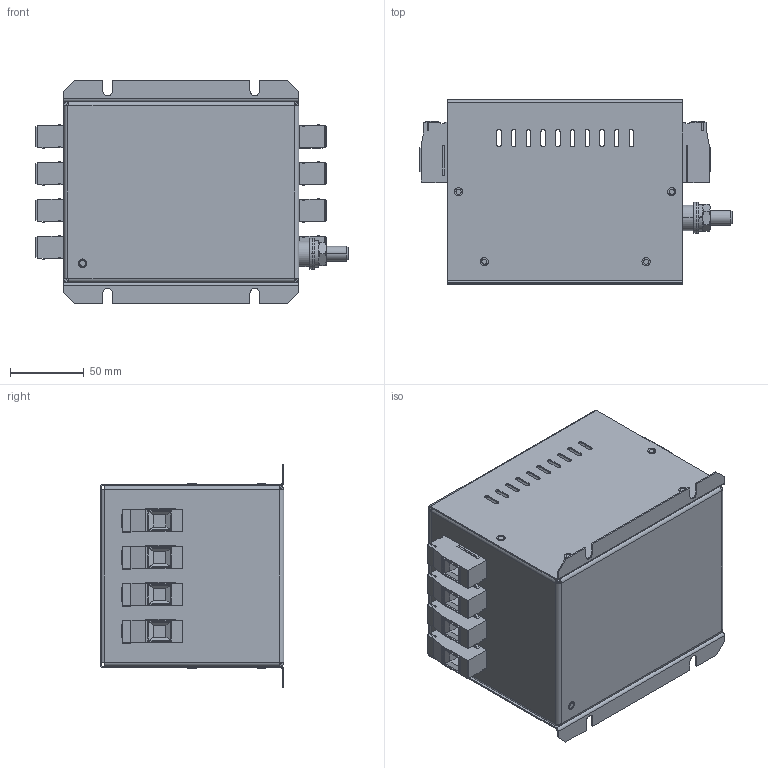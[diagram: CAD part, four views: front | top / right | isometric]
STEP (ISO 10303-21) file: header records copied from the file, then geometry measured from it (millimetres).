
FILE_DESCRIPTION (( 'STEP AP214' ), '1' );
FILE_NAME ('NF-4-64-GTR.STEP', '2026-09-15T11:15:04', ( '' ), ( '' ), 'SwSTEP 2.0', 'SolidWorks 2025', '' );
FILE_SCHEMA (( 'AUTOMOTIVE_DESIGN' ));
Length unit declared in the file: millimetre
Products named in the file (12): NF-4-64-GTR; ISO 4017 - M10 x 35; NF-4-64-GTR(2); ANSI B18.2.4.5M - M10 x 1.5; IFI 509 - 42_1; 1000-464; ASME B18.21.2M - 10, LWSHHSLW; AS 1237 - 10 mm; 1; 1000-464 lid; MPT2515; FH-M4-10 ZI_1
Assembly tree (26 placements, depth 3):
  NF-4-64-GTR
    NF-4-64-GTR(2)
      1000-464
      FH-M4-10 ZI_1
      1000-464 lid
      MPT2515  x8
      AS 1237 - 10 mm  x2
      ASME B18.21.2M - 10, LWSHHSLW
      ANSI B18.2.4.5M - M10 x 1.5
      IFI 509 - 42_1  x8
      1
      ISO 4017 - M10 x 35
Bounding box: 212.3 x 125 x 152 mm (x, y, z)
Volume: 254564.3 mm3; surface area: 304582.3 mm2
Topology: 25 solids, 31 shells, 2211 faces, 5546 edges, 3542 vertices
Faces by surface type: plane 1365, cylinder 581, cone 185, sphere 32, bspline 24, torus 24
Entity records: 26605 total; most frequent: CARTESIAN_POINT 5273, ORIENTED_EDGE 4376, DIRECTION 4348, EDGE_CURVE 2188, AXIS2_PLACEMENT_3D 1490, VERTEX_POINT 1392, VECTOR 1368, LINE 1368
